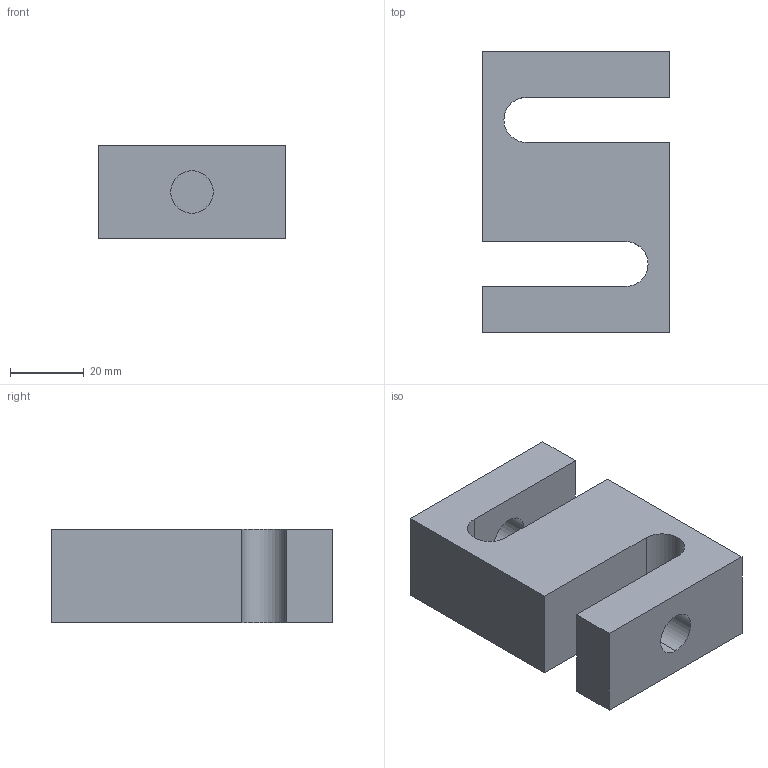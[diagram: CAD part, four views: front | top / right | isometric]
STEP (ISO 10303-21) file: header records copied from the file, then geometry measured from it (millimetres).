
FILE_DESCRIPTION (( 'STEP AP203' ), '1' );
FILE_NAME ('ras1-2.5K lb.STEP', '2018-03-30T04:52:03', ( '' ), ( '' ), 'SwSTEP 2.0', 'SolidWorks 2016', '' );
FILE_SCHEMA (( 'CONFIG_CONTROL_DESIGN' ));
Length unit declared in the file: inch
Products named in the file (1): ras1-2.5K lb
Bounding box: 50.8 x 76.2 x 25.4 mm (x, y, z)
Volume: 68705.8 mm3; surface area: 16849.9 mm2
Topology: 1 solids, 1 shells, 19 faces, 51 edges, 34 vertices
Faces by surface type: plane 12, cylinder 7
Entity records: 686 total; most frequent: DIRECTION 105, CARTESIAN_POINT 105, ORIENTED_EDGE 102, EDGE_CURVE 51, LINE 37, VECTOR 37, AXIS2_PLACEMENT_3D 34, VERTEX_POINT 34
